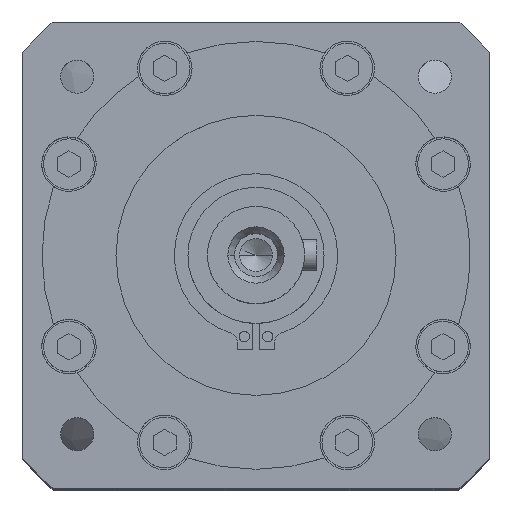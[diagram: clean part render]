
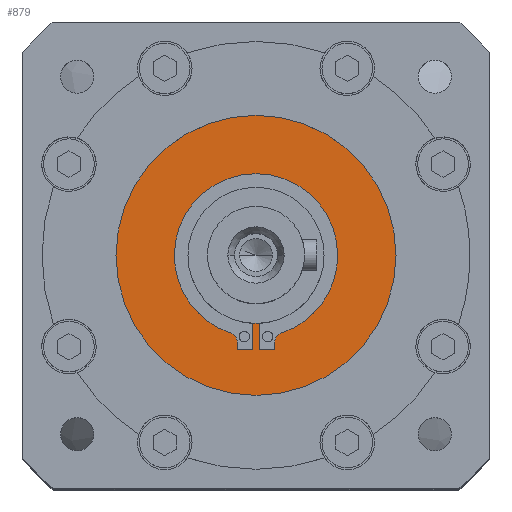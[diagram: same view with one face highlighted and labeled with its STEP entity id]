
A CAD part, top view. The second image highlights one B-rep face of the part: STEP entity #879.
In plain terms, the highlighted planar face has unit normal (0, 0, 1).
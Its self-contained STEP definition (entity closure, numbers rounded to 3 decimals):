
#879 = ADVANCED_FACE ( 'NONE', ( #20002, #20519 ), #23485, .F. ) ;
#1562 = AXIS2_PLACEMENT_3D ( 'NONE', #26141, #26108, #26101 ) ;
#1790 = VERTEX_POINT ( 'NONE', #4123 ) ;
#1824 = ORIENTED_EDGE ( 'NONE', *, *, #25360, .F. ) ;
#1841 = EDGE_CURVE ( 'NONE', #21507, #8411, #11214, .T. ) ;
#2002 = ORIENTED_EDGE ( 'NONE', *, *, #11781, .F. ) ;
#2069 = VERTEX_POINT ( 'NONE', #10051 ) ;
#2482 = CARTESIAN_POINT ( 'NONE',  ( 0., 0., -2.7 ) ) ;
#2526 = ORIENTED_EDGE ( 'NONE', *, *, #4675, .F. ) ;
#3108 = DIRECTION ( 'NONE',  ( -1., 0., 0. ) ) ;
#3139 = DIRECTION ( 'NONE',  ( 0., 0., 1. ) ) ;
#3176 = CARTESIAN_POINT ( 'NONE',  ( 0., 0., -2.7 ) ) ;
#3336 = AXIS2_PLACEMENT_3D ( 'NONE', #3176, #3139, #3108 ) ;
#3443 = ORIENTED_EDGE ( 'NONE', *, *, #7879, .F. ) ;
#3688 = VERTEX_POINT ( 'NONE', #14543 ) ;
#3784 = LINE ( 'NONE', #28924, #16078 ) ;
#4123 = CARTESIAN_POINT ( 'NONE',  ( -4.35, -24.279, -2.7 ) ) ;
#4256 = VECTOR ( 'NONE', #5021, 1000. ) ;
#4357 = LINE ( 'NONE', #5064, #4256 ) ;
#4392 = ORIENTED_EDGE ( 'NONE', *, *, #11222, .F. ) ;
#4546 = CIRCLE ( 'NONE', #31322, 0.5 ) ;
#4659 = CIRCLE ( 'NONE', #13362, 0.5 ) ;
#4675 = EDGE_CURVE ( 'NONE', #17282, #1790, #4659, .T. ) ;
#5021 = DIRECTION ( 'NONE',  ( 0., 1., 0. ) ) ;
#5045 = DIRECTION ( 'NONE',  ( -1., 0., 0. ) ) ;
#5064 = CARTESIAN_POINT ( 'NONE',  ( -0.85, 0., -2.7 ) ) ;
#5229 = VECTOR ( 'NONE', #17809, 1000. ) ;
#5743 = ORIENTED_EDGE ( 'NONE', *, *, #7928, .T. ) ;
#5749 = CIRCLE ( 'NONE', #19187, 2.5 ) ;
#5823 = CARTESIAN_POINT ( 'NONE',  ( 21., 0., -2.7 ) ) ;
#6030 = ORIENTED_EDGE ( 'NONE', *, *, #11597, .F. ) ;
#6031 = VERTEX_POINT ( 'NONE', #26791 ) ;
#6399 = VERTEX_POINT ( 'NONE', #20863 ) ;
#6889 = VERTEX_POINT ( 'NONE', #11863 ) ;
#7780 = CARTESIAN_POINT ( 'NONE',  ( 0., -24.279, -2.7 ) ) ;
#7879 = EDGE_CURVE ( 'NONE', #8411, #24834, #26057, .T. ) ;
#7928 = EDGE_CURVE ( 'NONE', #10091, #6889, #12365, .T. ) ;
#7969 = VECTOR ( 'NONE', #30095, 1000. ) ;
#8100 = DIRECTION ( 'NONE',  ( 1., 0., 0. ) ) ;
#8411 = VERTEX_POINT ( 'NONE', #16557 ) ;
#9036 = AXIS2_PLACEMENT_3D ( 'NONE', #27125, #27105, #27055 ) ;
#9268 = CARTESIAN_POINT ( 'NONE',  ( 0., -24.279, -2.7 ) ) ;
#10051 = CARTESIAN_POINT ( 'NONE',  ( -0.85, -17.479, -2.7 ) ) ;
#10091 = VERTEX_POINT ( 'NONE', #18948 ) ;
#10173 = CARTESIAN_POINT ( 'NONE',  ( 4.35, -23.779, -2.7 ) ) ;
#10908 = VECTOR ( 'NONE', #8100, 1000. ) ;
#10988 = EDGE_CURVE ( 'NONE', #6031, #28735, #3784, .T. ) ;
#11131 = EDGE_CURVE ( 'NONE', #28735, #21155, #30297, .T. ) ;
#11214 = CIRCLE ( 'NONE', #3336, 21. ) ;
#11222 = EDGE_CURVE ( 'NONE', #6399, #16649, #19349, .T. ) ;
#11597 = EDGE_CURVE ( 'NONE', #16649, #18778, #5749, .T. ) ;
#11754 = LINE ( 'NONE', #7780, #10908 ) ;
#11781 = EDGE_CURVE ( 'NONE', #18778, #21507, #28527, .T. ) ;
#11863 = CARTESIAN_POINT ( 'NONE',  ( 36., 0., -2.7 ) ) ;
#11898 = CIRCLE ( 'NONE', #15896, 36. ) ;
#11964 = EDGE_CURVE ( 'NONE', #24834, #3688, #19523, .T. ) ;
#12149 = EDGE_CURVE ( 'NONE', #3688, #17282, #28963, .T. ) ;
#12278 = CARTESIAN_POINT ( 'NONE',  ( -4.85, 0., -2.7 ) ) ;
#12312 = DIRECTION ( 'NONE',  ( 0., -1., 0. ) ) ;
#12334 = ORIENTED_EDGE ( 'NONE', *, *, #10988, .F. ) ;
#12365 = CIRCLE ( 'NONE', #1562, 36. ) ;
#12432 = EDGE_CURVE ( 'NONE', #1790, #29816, #11754, .T. ) ;
#12573 = EDGE_CURVE ( 'NONE', #29816, #2069, #4357, .T. ) ;
#12618 = DIRECTION ( 'NONE',  ( -1., 0., 0. ) ) ;
#13179 = CARTESIAN_POINT ( 'NONE',  ( 4.85, -22.321, -2.7 ) ) ;
#13362 = AXIS2_PLACEMENT_3D ( 'NONE', #15307, #15265, #15240 ) ;
#13933 = EDGE_CURVE ( 'NONE', #6889, #10091, #11898, .T. ) ;
#14476 = DIRECTION ( 'NONE',  ( -1., 0., 0. ) ) ;
#14499 = DIRECTION ( 'NONE',  ( 0., 0., -1. ) ) ;
#14539 = CARTESIAN_POINT ( 'NONE',  ( -7.35, -22.321, -2.7 ) ) ;
#14543 = CARTESIAN_POINT ( 'NONE',  ( -4.85, -22.321, -2.7 ) ) ;
#14807 = AXIS2_PLACEMENT_3D ( 'NONE', #2482, #19667, #5045 ) ;
#15019 = AXIS2_PLACEMENT_3D ( 'NONE', #14539, #14499, #14476 ) ;
#15240 = DIRECTION ( 'NONE',  ( -1., 0., 0. ) ) ;
#15265 = DIRECTION ( 'NONE',  ( 0., 0., 1. ) ) ;
#15307 = CARTESIAN_POINT ( 'NONE',  ( -4.35, -23.779, -2.7 ) ) ;
#15896 = AXIS2_PLACEMENT_3D ( 'NONE', #16135, #16130, #16101 ) ;
#16078 = VECTOR ( 'NONE', #26263, 1000. ) ;
#16101 = DIRECTION ( 'NONE',  ( 1., 0., 0. ) ) ;
#16130 = DIRECTION ( 'NONE',  ( 0., 0., 1. ) ) ;
#16135 = CARTESIAN_POINT ( 'NONE',  ( 0., 0., -2.7 ) ) ;
#16557 = CARTESIAN_POINT ( 'NONE',  ( -21., 0., -2.7 ) ) ;
#16649 = VERTEX_POINT ( 'NONE', #13179 ) ;
#16912 = AXIS2_PLACEMENT_3D ( 'NONE', #17689, #17660, #17654 ) ;
#17282 = VERTEX_POINT ( 'NONE', #27843 ) ;
#17654 = DIRECTION ( 'NONE',  ( -1., 0., 0. ) ) ;
#17660 = DIRECTION ( 'NONE',  ( 0., 0., 1. ) ) ;
#17689 = CARTESIAN_POINT ( 'NONE',  ( 0., 0., -2.7 ) ) ;
#17785 = CARTESIAN_POINT ( 'NONE',  ( -0.85, -24.279, -2.7 ) ) ;
#17809 = DIRECTION ( 'NONE',  ( 1., 0., 0. ) ) ;
#18778 = VERTEX_POINT ( 'NONE', #23614 ) ;
#18948 = CARTESIAN_POINT ( 'NONE',  ( -36., 0., -2.7 ) ) ;
#19187 = AXIS2_PLACEMENT_3D ( 'NONE', #22758, #22754, #22715 ) ;
#19340 = CARTESIAN_POINT ( 'NONE',  ( 4.35, -24.279, -2.7 ) ) ;
#19349 = LINE ( 'NONE', #30218, #7969 ) ;
#19436 = ORIENTED_EDGE ( 'NONE', *, *, #12573, .F. ) ;
#19499 = ORIENTED_EDGE ( 'NONE', *, *, #13933, .T. ) ;
#19523 = CIRCLE ( 'NONE', #15019, 2.5 ) ;
#19667 = DIRECTION ( 'NONE',  ( 0., 0., 1. ) ) ;
#20002 = FACE_BOUND ( 'NONE', #20188, .T. ) ;
#20188 = EDGE_LOOP ( 'NONE', ( #28760, #2526, #25962, #28910, #3443, #28300, #2002, #6030, #4392, #24615, #31178, #12334, #1824, #19436 ) ) ;
#20519 = FACE_OUTER_BOUND ( 'NONE', #31419, .T. ) ;
#20863 = CARTESIAN_POINT ( 'NONE',  ( 4.85, -23.779, -2.7 ) ) ;
#21155 = VERTEX_POINT ( 'NONE', #19340 ) ;
#21507 = VERTEX_POINT ( 'NONE', #5823 ) ;
#22027 = CARTESIAN_POINT ( 'NONE',  ( 0.85, -24.279, -2.7 ) ) ;
#22715 = DIRECTION ( 'NONE',  ( -1., 0., 0. ) ) ;
#22754 = DIRECTION ( 'NONE',  ( 0., 0., -1. ) ) ;
#22758 = CARTESIAN_POINT ( 'NONE',  ( 7.35, -22.321, -2.7 ) ) ;
#22985 = DIRECTION ( 'NONE',  ( -1., 0., 0. ) ) ;
#22995 = DIRECTION ( 'NONE',  ( 0., 0., -1. ) ) ;
#23022 = CARTESIAN_POINT ( 'NONE',  ( 0., 0., -2.7 ) ) ;
#23485 = PLANE ( 'NONE',  #24321 ) ;
#23614 = CARTESIAN_POINT ( 'NONE',  ( 6.568, -19.946, -2.7 ) ) ;
#24321 = AXIS2_PLACEMENT_3D ( 'NONE', #23022, #22995, #22985 ) ;
#24615 = ORIENTED_EDGE ( 'NONE', *, *, #31673, .F. ) ;
#24834 = VERTEX_POINT ( 'NONE', #26689 ) ;
#25360 = EDGE_CURVE ( 'NONE', #2069, #6031, #25585, .T. ) ;
#25585 = CIRCLE ( 'NONE', #14807, 17.5 ) ;
#25962 = ORIENTED_EDGE ( 'NONE', *, *, #12149, .F. ) ;
#26057 = CIRCLE ( 'NONE', #9036, 21. ) ;
#26101 = DIRECTION ( 'NONE',  ( 1., 0., 0. ) ) ;
#26108 = DIRECTION ( 'NONE',  ( 0., 0., 1. ) ) ;
#26141 = CARTESIAN_POINT ( 'NONE',  ( 0., 0., -2.7 ) ) ;
#26263 = DIRECTION ( 'NONE',  ( 0., -1., 0. ) ) ;
#26689 = CARTESIAN_POINT ( 'NONE',  ( -6.568, -19.946, -2.7 ) ) ;
#26791 = CARTESIAN_POINT ( 'NONE',  ( 0.85, -17.479, -2.7 ) ) ;
#27055 = DIRECTION ( 'NONE',  ( -1., 0., 0. ) ) ;
#27105 = DIRECTION ( 'NONE',  ( 0., 0., 1. ) ) ;
#27110 = DIRECTION ( 'NONE',  ( 0., 0., 1. ) ) ;
#27125 = CARTESIAN_POINT ( 'NONE',  ( 0., 0., -2.7 ) ) ;
#27843 = CARTESIAN_POINT ( 'NONE',  ( -4.85, -23.779, -2.7 ) ) ;
#28300 = ORIENTED_EDGE ( 'NONE', *, *, #1841, .F. ) ;
#28527 = CIRCLE ( 'NONE', #16912, 21. ) ;
#28734 = VECTOR ( 'NONE', #12312, 1000. ) ;
#28735 = VERTEX_POINT ( 'NONE', #22027 ) ;
#28760 = ORIENTED_EDGE ( 'NONE', *, *, #12432, .F. ) ;
#28910 = ORIENTED_EDGE ( 'NONE', *, *, #11964, .F. ) ;
#28924 = CARTESIAN_POINT ( 'NONE',  ( 0.85, 0., -2.7 ) ) ;
#28963 = LINE ( 'NONE', #12278, #28734 ) ;
#29816 = VERTEX_POINT ( 'NONE', #17785 ) ;
#30095 = DIRECTION ( 'NONE',  ( 0., 1., 0. ) ) ;
#30218 = CARTESIAN_POINT ( 'NONE',  ( 4.85, 0., -2.7 ) ) ;
#30297 = LINE ( 'NONE', #9268, #5229 ) ;
#31178 = ORIENTED_EDGE ( 'NONE', *, *, #11131, .F. ) ;
#31322 = AXIS2_PLACEMENT_3D ( 'NONE', #10173, #27110, #12618 ) ;
#31419 = EDGE_LOOP ( 'NONE', ( #19499, #5743 ) ) ;
#31673 = EDGE_CURVE ( 'NONE', #21155, #6399, #4546, .T. ) ;
